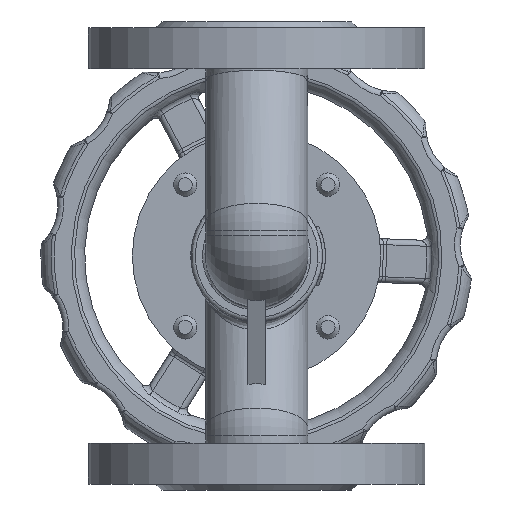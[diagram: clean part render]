
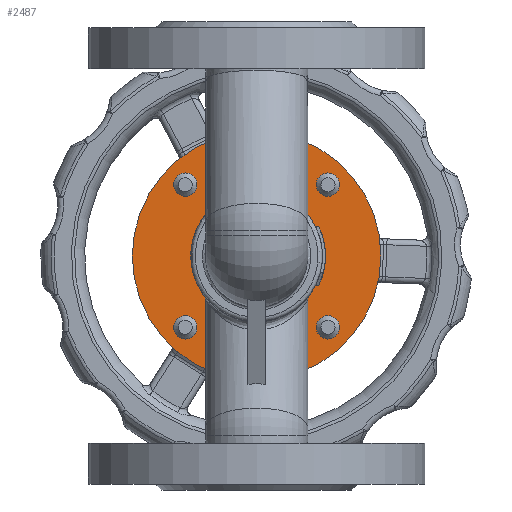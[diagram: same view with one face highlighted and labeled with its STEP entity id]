
A CAD part, front view. The second image highlights one B-rep face of the part: STEP entity #2487.
In plain terms, the highlighted planar face has unit normal (0, -1, 0).
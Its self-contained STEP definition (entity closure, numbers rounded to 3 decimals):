
#2487=ADVANCED_FACE('',(#11123,#11125,#11127,#11129,#11131,#11133),#11135,.T.);
#11123=FACE_BOUND('',#11124,.T.);
#11124=EDGE_LOOP('',(#19940));
#11125=FACE_BOUND('',#11126,.T.);
#11126=EDGE_LOOP('',(#19941));
#11127=FACE_BOUND('',#11128,.T.);
#11128=EDGE_LOOP('',(#19942));
#11129=FACE_BOUND('',#11130,.T.);
#11130=EDGE_LOOP('',(#19943));
#11131=FACE_BOUND('',#11132,.T.);
#11132=EDGE_LOOP('',(#19944));
#11133=FACE_BOUND('',#11134,.T.);
#11134=EDGE_LOOP('',(#19945));
#11135=PLANE('',#11136);
#11136=AXIS2_PLACEMENT_3D('',#11137,#11138,#11139);
#11137=CARTESIAN_POINT('',(0.,46.5,0.));
#11138=DIRECTION('',(0.,-1.,0.));
#11139=DIRECTION('',(0.,0.,1.));
#19940=ORIENTED_EDGE('',*,*,#24163,.F.);
#19941=ORIENTED_EDGE('',*,*,#24238,.T.);
#19942=ORIENTED_EDGE('',*,*,#24239,.T.);
#19943=ORIENTED_EDGE('',*,*,#24240,.T.);
#19944=ORIENTED_EDGE('',*,*,#24241,.T.);
#19945=ORIENTED_EDGE('',*,*,#24242,.T.);
#24163=EDGE_CURVE('',#26800,#26800,#26801,.T.);
#24238=EDGE_CURVE('',#26896,#26896,#26897,.T.);
#24239=EDGE_CURVE('',#26898,#26898,#26899,.T.);
#24240=EDGE_CURVE('',#26900,#26900,#26901,.T.);
#24241=EDGE_CURVE('',#26902,#26902,#26903,.T.);
#24242=EDGE_CURVE('',#26904,#26904,#26905,.T.);
#26800=VERTEX_POINT('',#35428);
#26801=CIRCLE('',#35429,42.5);
#26896=VERTEX_POINT('',#36470);
#26897=CIRCLE('',#36471,20.5);
#26898=VERTEX_POINT('',#36475);
#26899=CIRCLE('',#36476,4.);
#26900=VERTEX_POINT('',#36480);
#26901=CIRCLE('',#36481,4.);
#26902=VERTEX_POINT('',#36485);
#26903=CIRCLE('',#36486,4.);
#26904=VERTEX_POINT('',#36490);
#26905=CIRCLE('',#36491,4.);
#35428=CARTESIAN_POINT('',(0.,46.5,42.5));
#35429=AXIS2_PLACEMENT_3D('',#35430,#35431,#35432);
#35430=CARTESIAN_POINT('',(0.,46.5,0.));
#35431=DIRECTION('',(0.,1.,0.));
#35432=DIRECTION('',(0.,0.,1.));
#36470=CARTESIAN_POINT('',(0.,46.5,20.5));
#36471=AXIS2_PLACEMENT_3D('',#36472,#36473,#36474);
#36472=CARTESIAN_POINT('',(0.,46.5,0.));
#36473=DIRECTION('',(0.,1.,0.));
#36474=DIRECTION('',(0.,0.,1.));
#36475=CARTESIAN_POINT('',(-24.395,46.5,20.395));
#36476=AXIS2_PLACEMENT_3D('',#36477,#36478,#36479);
#36477=CARTESIAN_POINT('',(-24.395,46.5,24.395));
#36478=DIRECTION('',(0.,1.,0.));
#36479=DIRECTION('',(0.,0.,-1.));
#36480=CARTESIAN_POINT('',(-20.395,46.5,-24.395));
#36481=AXIS2_PLACEMENT_3D('',#36482,#36483,#36484);
#36482=CARTESIAN_POINT('',(-24.395,46.5,-24.395));
#36483=DIRECTION('',(0.,1.,0.));
#36484=DIRECTION('',(1.,0.,0.));
#36485=CARTESIAN_POINT('',(24.395,46.5,-20.395));
#36486=AXIS2_PLACEMENT_3D('',#36487,#36488,#36489);
#36487=CARTESIAN_POINT('',(24.395,46.5,-24.395));
#36488=DIRECTION('',(0.,1.,0.));
#36489=DIRECTION('',(0.,0.,1.));
#36490=CARTESIAN_POINT('',(20.395,46.5,24.395));
#36491=AXIS2_PLACEMENT_3D('',#36492,#36493,#36494);
#36492=CARTESIAN_POINT('',(24.395,46.5,24.395));
#36493=DIRECTION('',(0.,1.,0.));
#36494=DIRECTION('',(-1.,0.,0.));
